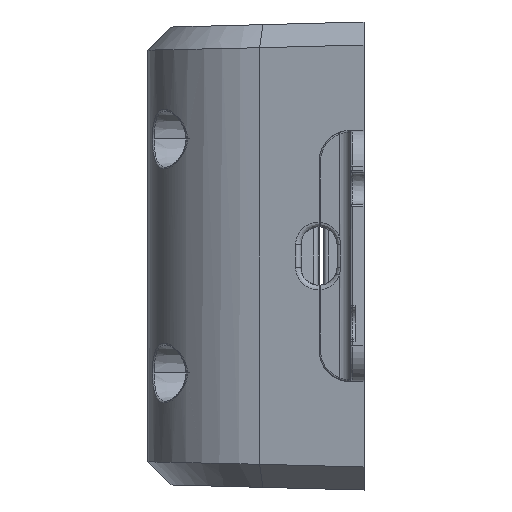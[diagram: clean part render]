
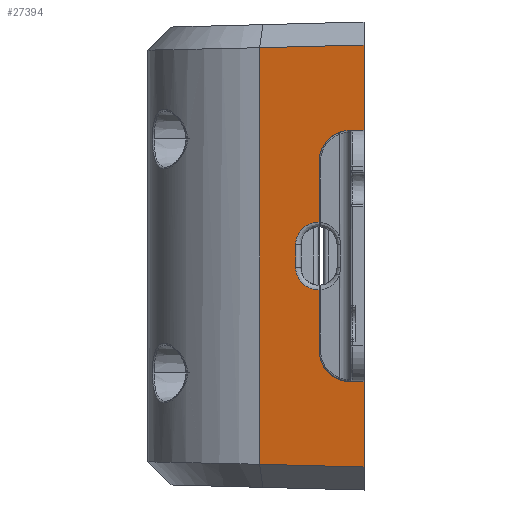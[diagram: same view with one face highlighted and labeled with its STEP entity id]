
A CAD part, left-side view. The second image highlights one B-rep face of the part: STEP entity #27394.
In plain terms, the highlighted planar face has unit normal (-0.985, 0.174, 0).
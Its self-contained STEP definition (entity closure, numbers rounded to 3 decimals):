
#23656=DIRECTION('',(0.,0.,1.));
#23657=VECTOR('',#23656,9.444);
#23658=CARTESIAN_POINT('',(-76.5,0.,
-23.444));
#23659=LINE('',#23658,#23657);
#23706=CARTESIAN_POINT('',(-76.219,1.592,
-13.958));
#23707=CARTESIAN_POINT('',(-76.177,1.831,
-13.952));
#23708=CARTESIAN_POINT('',(-76.096,2.292,
-13.891));
#23709=CARTESIAN_POINT('',(-75.984,2.927,
-13.678));
#23710=CARTESIAN_POINT('',(-75.881,3.509,
-13.354));
#23711=CARTESIAN_POINT('',(-75.78,4.084,
-12.863));
#23712=CARTESIAN_POINT('',(-75.701,4.533,
-12.25));
#23713=CARTESIAN_POINT('',(-75.655,4.793,
-11.697));
#23714=CARTESIAN_POINT('',(-75.625,4.965,
-11.077));
#23715=CARTESIAN_POINT('',(-75.618,5.,
-10.668));
#23716=CARTESIAN_POINT('',(-75.618,5.,
-10.46));
#23721=CARTESIAN_POINT('',(-75.618,5.,
-3.748));
#23752=CARTESIAN_POINT('',(-75.618,5.,
-3.748));
#23753=CARTESIAN_POINT('',(-75.584,5.193,
-3.755));
#23754=CARTESIAN_POINT('',(-75.518,5.57,
-3.725));
#23755=CARTESIAN_POINT('',(-75.42,6.127,
-3.548));
#23756=CARTESIAN_POINT('',(-75.332,6.626,
-3.248));
#23757=CARTESIAN_POINT('',(-75.258,7.041,
-2.844));
#23758=CARTESIAN_POINT('',(-75.204,7.352,
-2.36));
#23759=CARTESIAN_POINT('',(-75.17,7.545,
-1.812));
#23760=CARTESIAN_POINT('',(-75.162,7.587,
-1.44));
#23761=CARTESIAN_POINT('',(-75.162,7.587,
-1.25));
#23774=DIRECTION('',(0.,0.,-1.));
#23775=VECTOR('',#23774,6.711);
#23776=CARTESIAN_POINT('',(-75.618,5.,
-3.748));
#23777=LINE('',#23776,#23775);
#23781=DIRECTION('',(-0.174,-0.984,-0.026));
#23782=VECTOR('',#23781,1.617);
#23783=CARTESIAN_POINT('',(-76.219,1.592,
-13.958));
#23784=LINE('',#23783,#23782);
#23788=DIRECTION('',(0.174,0.984,0.026));
#23789=VECTOR('',#23788,11.788);
#23790=CARTESIAN_POINT('',(-76.5,0.,
-23.444));
#23791=LINE('',#23790,#23789);
#23795=DIRECTION('',(-0.174,-0.984,0.026));
#23796=VECTOR('',#23795,11.788);
#23797=CARTESIAN_POINT('',(-74.454,11.605,
23.141));
#23798=LINE('',#23797,#23796);
#23802=DIRECTION('',(0.,0.,-1.));
#23803=VECTOR('',#23802,6.711);
#23804=CARTESIAN_POINT('',(-75.618,5.,
10.46));
#23805=LINE('',#23804,#23803);
#24873=DIRECTION('',(0.,0.,1.));
#24874=VECTOR('',#24873,2.5);
#24875=CARTESIAN_POINT('',(-75.162,7.587,
-1.25));
#24876=LINE('',#24875,#24874);
#24888=CARTESIAN_POINT('',(-75.162,7.587,
1.25));
#24889=CARTESIAN_POINT('',(-75.162,7.587,
1.442));
#24890=CARTESIAN_POINT('',(-75.17,7.544,
1.817));
#24891=CARTESIAN_POINT('',(-75.204,7.35,
2.362));
#24892=CARTESIAN_POINT('',(-75.259,7.04,
2.845));
#24893=CARTESIAN_POINT('',(-75.332,6.622,
3.251));
#24894=CARTESIAN_POINT('',(-75.42,6.123,
3.55));
#24895=CARTESIAN_POINT('',(-75.517,5.573,
3.724));
#24896=CARTESIAN_POINT('',(-75.584,5.194,
3.755));
#24897=CARTESIAN_POINT('',(-75.618,5.,
3.748));
#24909=CARTESIAN_POINT('',(-75.618,5.,
3.748));
#24962=CARTESIAN_POINT('',(-75.618,5.,
10.46));
#24963=CARTESIAN_POINT('',(-75.618,5.,
10.693));
#24964=CARTESIAN_POINT('',(-75.626,4.955,
11.144));
#24965=CARTESIAN_POINT('',(-75.66,4.762,
11.782));
#24966=CARTESIAN_POINT('',(-75.713,4.463,
12.365));
#24967=CARTESIAN_POINT('',(-75.796,3.993,
12.958));
#24968=CARTESIAN_POINT('',(-75.901,3.396,
13.428));
#24969=CARTESIAN_POINT('',(-75.999,2.843,
13.711));
#24970=CARTESIAN_POINT('',(-76.108,2.225,
13.904));
#24971=CARTESIAN_POINT('',(-76.182,1.806,
13.953));
#24972=CARTESIAN_POINT('',(-76.219,1.592,
13.958));
#24977=DIRECTION('',(-0.174,-0.984,0.026));
#24978=VECTOR('',#24977,1.617);
#24979=CARTESIAN_POINT('',(-76.219,1.592,
13.958));
#24980=LINE('',#24979,#24978);
#24991=DIRECTION('',(0.,0.,1.));
#24992=VECTOR('',#24991,9.444);
#24993=CARTESIAN_POINT('',(-76.5,0.,14.));
#24994=LINE('',#24993,#24992);
#25050=DIRECTION('',(0.,0.,-1.));
#25051=VECTOR('',#25050,46.281);
#25052=CARTESIAN_POINT('',(-74.454,11.605,
23.141));
#25053=LINE('',#25052,#25051);
#26782=CARTESIAN_POINT('',(-76.5,0.,-14.));
#26784=VERTEX_POINT('',#26782);
#26795=CARTESIAN_POINT('',(-76.5,0.,
-23.444));
#26796=VERTEX_POINT('',#26795);
#26798=CARTESIAN_POINT('',(-76.5,0.,14.));
#26800=VERTEX_POINT('',#26798);
#26801=CARTESIAN_POINT('',(-76.5,0.,
23.444));
#26802=VERTEX_POINT('',#26801);
#26814=CARTESIAN_POINT('',(-76.219,1.592,
-13.958));
#26816=VERTEX_POINT('',#26814);
#26817=CARTESIAN_POINT('',(-75.618,5.,
-10.46));
#26819=VERTEX_POINT('',#26817);
#26821=VERTEX_POINT('',#23721);
#26827=VERTEX_POINT('',#24909);
#26828=CARTESIAN_POINT('',(-75.618,5.,
10.46));
#26829=VERTEX_POINT('',#26828);
#26835=VERTEX_POINT('',#23761);
#26838=CARTESIAN_POINT('',(-74.454,11.605,
-23.141));
#26839=VERTEX_POINT('',#26838);
#26840=CARTESIAN_POINT('',(-74.454,11.605,
23.141));
#26841=VERTEX_POINT('',#26840);
#26842=CARTESIAN_POINT('',(-76.219,1.592,
13.958));
#26843=VERTEX_POINT('',#26842);
#26844=VERTEX_POINT('',#24888);
#27364=CARTESIAN_POINT('',(-76.5,0.,-29.133));
#27365=DIRECTION('',(-0.985,0.174,0.));
#27366=DIRECTION('',(0.,0.,-1.));
#27367=AXIS2_PLACEMENT_3D('',#27364,#27365,#27366);
#27368=PLANE('',#27367);
#27369=ORIENTED_EDGE('',*,*,#27355,.F.);
#27370=ORIENTED_EDGE('',*,*,#27304,.T.);
#27371=ORIENTED_EDGE('',*,*,#27285,.F.);
#27372=ORIENTED_EDGE('',*,*,#27270,.T.);
#27373=ORIENTED_EDGE('',*,*,#27255,.F.);
#27375=ORIENTED_EDGE('',*,*,#27374,.T.);
#27377=ORIENTED_EDGE('',*,*,#27376,.F.);
#27379=ORIENTED_EDGE('',*,*,#27378,.T.);
#27381=ORIENTED_EDGE('',*,*,#27380,.F.);
#27383=ORIENTED_EDGE('',*,*,#27382,.F.);
#27385=ORIENTED_EDGE('',*,*,#27384,.F.);
#27387=ORIENTED_EDGE('',*,*,#27386,.T.);
#27389=ORIENTED_EDGE('',*,*,#27388,.F.);
#27391=ORIENTED_EDGE('',*,*,#27390,.F.);
#27392=EDGE_LOOP('',(#27369,#27370,#27371,#27372,#27373,#27375,#27377,#27379,
#27381,#27383,#27385,#27387,#27389,#27391));
#27393=FACE_OUTER_BOUND('',#27392,.F.);
#27394=ADVANCED_FACE('',(#27393),#27368,.T.);
#23717=B_SPLINE_CURVE_WITH_KNOTS('',3,(#23706,#23707,#23708,#23709,#23710,
#23711,#23712,#23713,#23714,#23715,#23716),.UNSPECIFIED.,.F.,.F.,(4,1,1,1,1,1,1,
1,4),(0.,0.125,0.25,0.375,0.5,0.625,0.75,0.875,1.),
.UNSPECIFIED.);
#23762=B_SPLINE_CURVE_WITH_KNOTS('',3,(#23752,#23753,#23754,#23755,#23756,
#23757,#23758,#23759,#23760,#23761),.UNSPECIFIED.,.F.,.F.,(4,1,1,1,1,1,1,4),(
0.,0.143,0.286,0.429,0.571,
0.714,0.857,1.),.UNSPECIFIED.);
#24898=B_SPLINE_CURVE_WITH_KNOTS('',3,(#24888,#24889,#24890,#24891,#24892,
#24893,#24894,#24895,#24896,#24897),.UNSPECIFIED.,.F.,.F.,(4,1,1,1,1,1,1,4),(
0.,0.143,0.286,0.429,0.571,
0.714,0.857,1.),.UNSPECIFIED.);
#24973=B_SPLINE_CURVE_WITH_KNOTS('',3,(#24962,#24963,#24964,#24965,#24966,
#24967,#24968,#24969,#24970,#24971,#24972),.UNSPECIFIED.,.F.,.F.,(4,1,1,1,1,1,1,
1,4),(0.,0.125,0.25,0.375,0.5,0.625,0.75,0.875,1.),
.UNSPECIFIED.);
#27255=EDGE_CURVE('',#26796,#26784,#23659,.T.);
#27270=EDGE_CURVE('',#26816,#26784,#23784,.T.);
#27285=EDGE_CURVE('',#26816,#26819,#23717,.T.);
#27304=EDGE_CURVE('',#26821,#26819,#23777,.T.);
#27355=EDGE_CURVE('',#26821,#26835,#23762,.T.);
#27374=EDGE_CURVE('',#26796,#26839,#23791,.T.);
#27376=EDGE_CURVE('',#26841,#26839,#25053,.T.);
#27378=EDGE_CURVE('',#26841,#26802,#23798,.T.);
#27380=EDGE_CURVE('',#26800,#26802,#24994,.T.);
#27382=EDGE_CURVE('',#26843,#26800,#24980,.T.);
#27384=EDGE_CURVE('',#26829,#26843,#24973,.T.);
#27386=EDGE_CURVE('',#26829,#26827,#23805,.T.);
#27388=EDGE_CURVE('',#26844,#26827,#24898,.T.);
#27390=EDGE_CURVE('',#26835,#26844,#24876,.T.);
